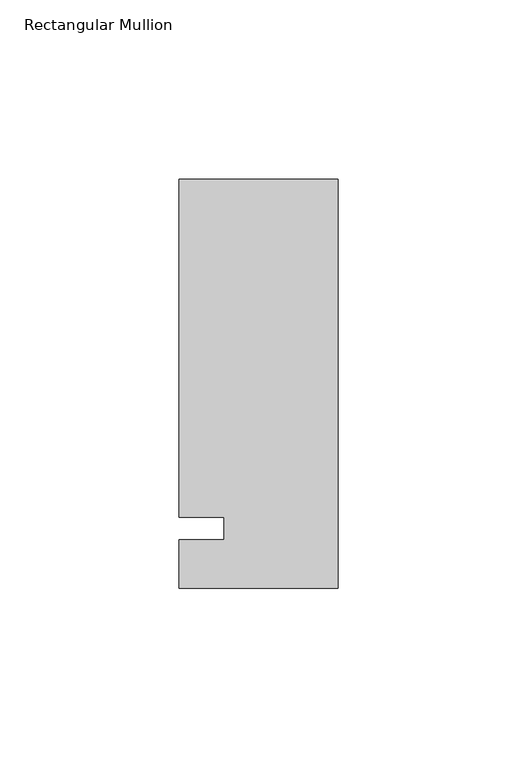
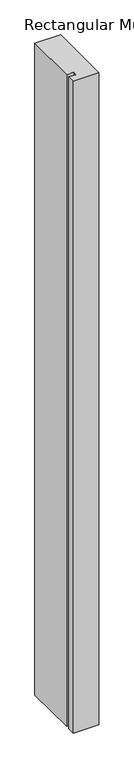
"""IFC4 building model written with IfcOpenShell, lengths in millimetres: member geometry, Rectangular Mullion : Kawneer-TRIFAB_VG_450_BACK_SB_Head."""

import ifcopenshell
import ifcopenshell.guid

model = None  # the IFC model being written
_history = None  # IfcOwnerHistory: only IFC2X3 demands one
_inside = {}  # id of a spatial element -> (the spatial element, [elements in it])
_under = {}  # id of a project, library or spatial element -> (it, [spatial elements below it])
_declared = {}  # id of a project -> (the project, [libraries it declares])
_typed = {}  # id of a type object -> (the type object, [elements of that type])
_made_of = {}  # id of a material, layer set ... -> (it, [elements and type objects made of it])


def new_model(schema):
    """Start an empty IFC model of exactly this schema.

    Asked for "IFC4X3", IfcOpenShell would pick the latest addendum, in which some entities
    have other attributes; the version numbers below select the first issue.
    IFC2X3 requires an IfcOwnerHistory on every rooted entity: one is made here for all.
    """
    global model, _history
    if schema == "IFC4X3":
        model = ifcopenshell.file(schema_version=(4, 3, 0, 0))
    else:
        model = ifcopenshell.file(schema=schema)
    _inside.clear()
    _under.clear()
    _declared.clear()
    _typed.clear()
    _made_of.clear()
    _history = None
    if model.schema == "IFC2X3":
        org = make("IfcOrganization", Name="unknown")
        user = make(
            "IfcPersonAndOrganization",
            ThePerson=make("IfcPerson", FamilyName="unknown"),
            TheOrganization=org,
        )
        app = make(
            "IfcApplication",
            ApplicationDeveloper=org,
            Version="unknown",
            ApplicationFullName="unknown",
            ApplicationIdentifier="unknown",
        )
        _history = make(
            "IfcOwnerHistory",
            OwningUser=user,
            OwningApplication=app,
            ChangeAction="ADDED",
            CreationDate=0,
        )
    return model


def make(cls, **values):
    """One entity of the class cls with the attributes given. An attribute that is None is left unset."""
    return model.create_entity(
        cls, **{name: value for name, value in values.items() if value is not None}
    )


def rooted(cls, **values):
    """An entity with a GlobalId (a new one), such as an element, a storey or a relation."""
    return make(cls, GlobalId=ifcopenshell.guid.new(), OwnerHistory=_history, **values)


def si_unit(unit_type, name, prefix=None):
    """IfcSIUnit, for example si_unit("LENGTHUNIT", "METRE", prefix="MILLI")."""
    return make("IfcSIUnit", UnitType=unit_type, Prefix=prefix, Name=name)


def assignment(units):
    """IfcUnitAssignment: the units of a project."""
    return None if units is None else make("IfcUnitAssignment", Units=units)


def point(xyz):
    """IfcCartesianPoint."""
    return None if xyz is None else make("IfcCartesianPoint", Coordinates=xyz)


def direction(xyz):
    """IfcDirection."""
    return None if xyz is None else make("IfcDirection", DirectionRatios=xyz)


def frame(location, z_axis=None, x_axis=None):
    """IfcAxis2Placement3D, a coordinate frame: its origin and axes. An axis left out is left unset."""
    return make(
        "IfcAxis2Placement3D",
        Location=point(location),
        Axis=direction(z_axis),
        RefDirection=direction(x_axis),
    )


def origin():
    """The frame at (0, 0, 0) with its axes left unset."""
    return frame((0.0, 0.0, 0.0))


def place(relative_to, where):
    """IfcLocalPlacement: puts the frame where relative to a parent placement (None: the world)."""
    return make(
        "IfcLocalPlacement", PlacementRelTo=relative_to, RelativePlacement=where
    )


def context(
    kind, dimensions, precision=None, world=None, true_north=None, identifier=None
):
    """IfcGeometricRepresentationContext, for example the 3D "Model" context."""
    return make(
        "IfcGeometricRepresentationContext",
        ContextIdentifier=identifier,
        ContextType=kind,
        CoordinateSpaceDimension=dimensions,
        Precision=precision,
        WorldCoordinateSystem=world,
        TrueNorth=true_north,
    )


def project(units=None, contexts=None):
    """IfcProject with its units and contexts."""
    return rooted(
        "IfcProject",
        Name="project",
        RepresentationContexts=contexts,
        UnitsInContext=assignment(units),
    )


def spatial(cls, under=None, at=None, **own):
    """A site, building, storey or space (cls), placed at a placement, below another one or the project."""
    s = rooted(cls, ObjectPlacement=at, **own)
    if under is not None:
        _under.setdefault(under.id(), (under, []))[1].append(s)
    return s


def polyline(points):
    """IfcPolyline through the points."""
    return make("IfcPolyline", Points=[point(p) for p in points])


def outline(outer, holes=None, kind="AREA"):
    """IfcArbitraryClosedProfileDef: a profile drawn as a closed curve; with holes, ...WithVoids."""
    if holes is None:
        return make("IfcArbitraryClosedProfileDef", ProfileType=kind, OuterCurve=outer)
    return make(
        "IfcArbitraryProfileDefWithVoids",
        ProfileType=kind,
        OuterCurve=outer,
        InnerCurves=holes,
    )


def extrude(swept, where, along, depth):
    """IfcExtrudedAreaSolid: the profile swept, set in the frame where, extruded along a direction by depth."""
    return make(
        "IfcExtrudedAreaSolid",
        SweptArea=swept,
        Position=where,
        ExtrudedDirection=direction(along),
        Depth=depth,
    )


def shape(context_of_items, identifier, shape_type, items):
    """IfcShapeRepresentation: the items that make up one representation, for example the "Body"."""
    return make(
        "IfcShapeRepresentation",
        ContextOfItems=context_of_items,
        RepresentationIdentifier=identifier,
        RepresentationType=shape_type,
        Items=items,
    )


def source(mapping_origin, context_of_items, identifier, shape_type, items):
    """IfcRepresentationMap: a shape defined once, which mapped items show again and again."""
    return make(
        "IfcRepresentationMap",
        MappingOrigin=mapping_origin,
        MappedRepresentation=shape(context_of_items, identifier, shape_type, items),
    )


def transform(
    local_origin,
    x_axis=None,
    y_axis=None,
    z_axis=None,
    scale=None,
    scale2=None,
    scale3=None,
    uniform=True,
):
    """IfcCartesianTransformationOperator3D, or its non-uniform kind. x_axis, y_axis, z_axis: its Axis1, 2, 3."""
    if uniform:
        return make(
            "IfcCartesianTransformationOperator3D",
            Axis1=direction(x_axis),
            Axis2=direction(y_axis),
            LocalOrigin=point(local_origin),
            Scale=scale,
            Axis3=direction(z_axis),
        )
    return make(
        "IfcCartesianTransformationOperator3DnonUniform",
        Axis1=direction(x_axis),
        Axis2=direction(y_axis),
        LocalOrigin=point(local_origin),
        Scale=scale,
        Axis3=direction(z_axis),
        Scale2=scale2,
        Scale3=scale3,
    )


def mapped(mapping_source, mapping_target):
    """IfcMappedItem: shows the shape of a source again, moved by a transform."""
    return make(
        "IfcMappedItem", MappingSource=mapping_source, MappingTarget=mapping_target
    )


def made_of(thing, what):
    """Note that an element or type object is made of a material, layer set ...; save() writes the relation."""
    if what is not None:
        _made_of.setdefault(what.id(), (what, []))[1].append(thing)
    return thing


def element(
    cls,
    number,
    at=None,
    inside=None,
    cuts=None,
    type_object=None,
    material=None,
    context=None,
    identifier="Body",
    shape_type=None,
    held_by="IfcProductDefinitionShape",
    body=None,
    shapes=None,
    **own,
):
    """One element of the class cls, such as IfcWall. Its Tag is "e" and its number.

    at: its placement. inside: the storey or other place that contains it. cuts: it is an
    opening in that element (IfcRelVoidsElement). A single representation is given by context,
    identifier, shape_type and body (its items); several are given by shapes. held_by: the class
    of the entity that holds the representations. save() writes the other relations.
    """
    e = rooted(cls, Tag="e%d" % number, ObjectPlacement=at, **own)
    if body is not None:
        shapes = [shape(context, identifier, shape_type, body)]
    if shapes is not None:
        e.Representation = make(held_by, Representations=shapes)
    if inside is not None:
        _inside.setdefault(inside.id(), (inside, []))[1].append(e)
    if cuts is not None:
        rooted(
            "IfcRelVoidsElement", RelatingBuildingElement=cuts, RelatedOpeningElement=e
        )
    if type_object is not None:
        _typed.setdefault(type_object.id(), (type_object, []))[1].append(e)
    return made_of(e, material)


def aggregate(whole, parts):
    """IfcRelAggregates: a whole, such as a stair, and the parts it consists of."""
    return rooted("IfcRelAggregates", RelatingObject=whole, RelatedObjects=parts)


def save(model, path):
    """Write the relations noted so far, then the file.

    IfcRelAggregates (storeys below a building ...), IfcRelContainedInSpatialStructure (elements
    in a storey), IfcRelDefinesByType, IfcRelAssociatesMaterial and IfcRelDeclares: one each for
    every whole, place, type object, material and project.
    """
    for whole, parts in _under.values():
        aggregate(whole, parts)
    for where, things in _inside.values():
        rooted(
            "IfcRelContainedInSpatialStructure",
            RelatedElements=things,
            RelatingStructure=where,
        )
    for kind, things in _typed.values():
        rooted("IfcRelDefinesByType", RelatedObjects=things, RelatingType=kind)
    for what, things in _made_of.values():
        rooted("IfcRelAssociatesMaterial", RelatedObjects=things, RelatingMaterial=what)
    for by, libraries in _declared.values():
        rooted("IfcRelDeclares", RelatingContext=by, RelatedDefinitions=libraries)
    model.write(path)


def rectangular_mullion_5c729091(model_context):
    return source(origin(), model_context, "Body", "SweptSolid", [
        extrude(outline(polyline([(-44.45, -16.66875), (-44.45, -3.175), (-31.7482296, -3.175), (-31.7482296, 3.175), (-44.45, 3.175), (-44.45, 97.63125), (0.0, 97.63125), (0.0, -16.66875), (-44.45, -16.66875)])), frame((0.0, 0.0, -1187.45), z_axis=(0.0, 0.0, 1.0), x_axis=(1.0, 0.0, 0.0)), (0.0, 0.0, 1.0), 1187.45),
    ])


if __name__ == "__main__":
    model = new_model("IFC4")
    model_context = context("Model", 3, world=origin())
    ifc_project = project(units=[si_unit("LENGTHUNIT", "METRE", prefix="MILLI")], contexts=[model_context])
    site = spatial("IfcSite", under=ifc_project)
    building = spatial("IfcBuilding", under=site)
    placement = place(None, origin())
    rectangular_mullion_shape = rectangular_mullion_5c729091(model_context)
    element("IfcMember", 1, ObjectType="Rectangular Mullion : Kawneer-TRIFAB_VG_450_BACK_SB_Head", at=placement, inside=building, context=model_context, shape_type="MappedRepresentation", body=[
        mapped(rectangular_mullion_shape, transform((0.0, 0.0, 0.0), x_axis=(1.0, 0.0, 0.0), y_axis=(0.0, 1.0, 0.0), z_axis=(0.0, 0.0, 1.0))),
    ])
    save(model, "model.ifc")
